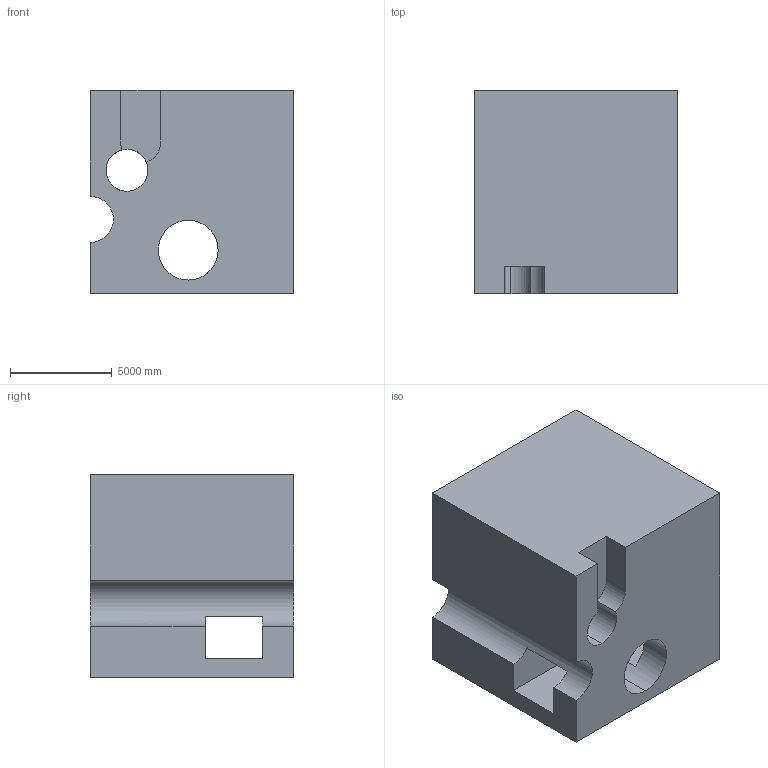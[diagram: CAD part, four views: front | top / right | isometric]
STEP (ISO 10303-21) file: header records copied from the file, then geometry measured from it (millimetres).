
FILE_DESCRIPTION (( 'STEP AP203' ), '1' );
FILE_NAME ('95.STEP', '2022-08-31T11:32:07', ( 'user' ), ( '' ), 'SwSTEP 2.0', 'SolidWorks 2021', '' );
FILE_SCHEMA (( 'CONFIG_CONTROL_DESIGN' ));
Length unit declared in the file: centimetre
Products named in the file (1): 95
Bounding box: 10000 x 10000 x 10000 mm (x, y, z)
Volume: 828394648311.3 mm3; surface area: 795796319.7 mm2
Topology: 1 solids, 1 shells, 25 faces, 75 edges, 50 vertices
Faces by surface type: plane 18, cylinder 7
Entity records: 944 total; most frequent: CARTESIAN_POINT 151, ORIENTED_EDGE 150, DIRECTION 149, EDGE_CURVE 75, LINE 53, VECTOR 53, VERTEX_POINT 50, AXIS2_PLACEMENT_3D 48
